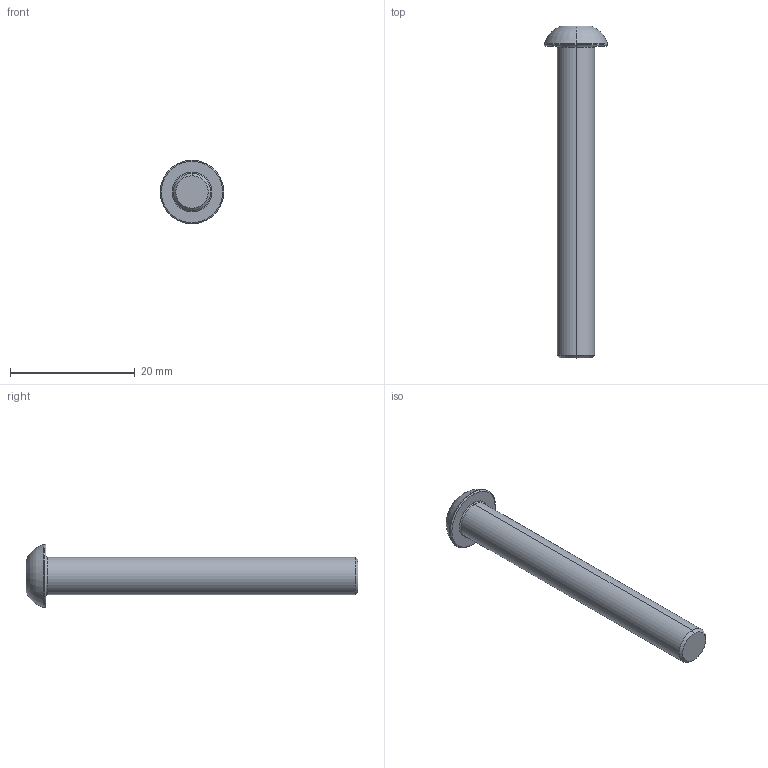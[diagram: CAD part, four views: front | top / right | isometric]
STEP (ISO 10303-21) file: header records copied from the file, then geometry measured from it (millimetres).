
FILE_DESCRIPTION (( 'STEP AP203' ), '1' );
FILE_NAME ('LGDD-304-M6x50.STEP', '2026-08-08T04:33:48', ( '' ), ( '' ), 'SwSTEP 2.0', 'SolidWorks 2020', '' );
FILE_SCHEMA (( 'CONFIG_CONTROL_DESIGN' ));
Length unit declared in the file: millimetre
Products named in the file (1): LGDD-304-M6x50
Bounding box: 10.2 x 53.2 x 10.2 mm (x, y, z)
Volume: 1563.2 mm3; surface area: 1184.1 mm2
Topology: 1 solids, 1 shells, 31 faces, 59 edges, 32 vertices
Faces by surface type: plane 10, cone 9, torus 8, cylinder 4
Entity records: 860 total; most frequent: CARTESIAN_POINT 150, DIRECTION 149, ORIENTED_EDGE 118, AXIS2_PLACEMENT_3D 65, EDGE_CURVE 59, EDGE_LOOP 33, CIRCLE 33, VERTEX_POINT 32
